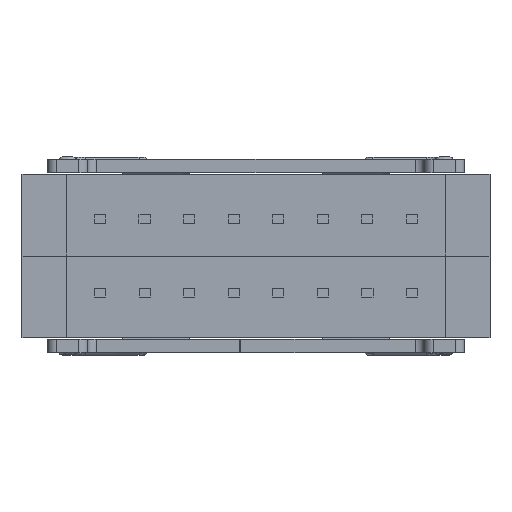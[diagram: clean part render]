
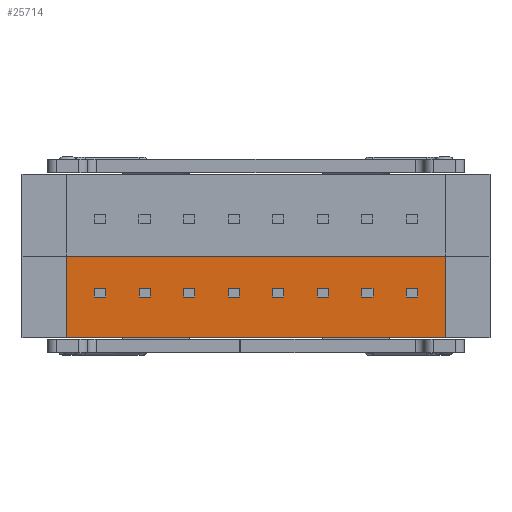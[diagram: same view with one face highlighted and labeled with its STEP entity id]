
A CAD part, top view. The second image highlights one B-rep face of the part: STEP entity #25714.
In plain terms, the highlighted free-form (B-spline) face has degree [1, 1] with [2, 2] control points.
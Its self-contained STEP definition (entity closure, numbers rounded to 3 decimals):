
#2527 = VERTEX_POINT ( 'NONE', #29261 ) ;
#4012 = CARTESIAN_POINT ( 'NONE',  ( 3.25, 1.13, -4.55 ) ) ;
#4457 = ORIENTED_EDGE ( 'NONE', *, *, #36661, .F. ) ;
#4458 = B_SPLINE_CURVE_WITH_KNOTS ( 'NONE', 1,
 ( #7135, #11232 ),
 .UNSPECIFIED., .F., .F.,
 ( 2, 2 ),
 ( 0., 1. ),
 .UNSPECIFIED. ) ;
#5976 = CARTESIAN_POINT ( 'NONE',  ( 3.08, 1.167, -4.55 ) ) ;
#7135 = CARTESIAN_POINT ( 'NONE',  ( 11.75, -0.7, -4.55 ) ) ;
#7848 = CARTESIAN_POINT ( 'NONE',  ( 11.75, 1.13, -4.55 ) ) ;
#11232 = CARTESIAN_POINT ( 'NONE',  ( 3.25, -0.7, -4.55 ) ) ;
#14150 = VERTEX_POINT ( 'NONE', #25659 ) ;
#14285 = VERTEX_POINT ( 'NONE', #19151 ) ;
#15444 = CARTESIAN_POINT ( 'NONE',  ( 11.75, -0.7, -4.55 ) ) ;
#15609 = FACE_OUTER_BOUND ( 'NONE', #26172, .T. ) ;
#18470 = CARTESIAN_POINT ( 'NONE',  ( 11.92, -0.737, -4.55 ) ) ;
#19151 = CARTESIAN_POINT ( 'NONE',  ( 3.25, 1.13, -4.55 ) ) ;
#22343 = ORIENTED_EDGE ( 'NONE', *, *, #24383, .F. ) ;
#24383 = EDGE_CURVE ( 'NONE', #14150, #35285, #29502, .T. ) ;
#25659 = CARTESIAN_POINT ( 'NONE',  ( 11.75, -0.7, -4.55 ) ) ;
#25700 = CARTESIAN_POINT ( 'NONE',  ( 3.25, -0.7, -4.55 ) ) ;
#25714 = ADVANCED_FACE ( 'NONE', ( #15609 ), #38115, .F. ) ;
#26172 = EDGE_LOOP ( 'NONE', ( #29466, #4457, #35606, #22343 ) ) ;
#29261 = CARTESIAN_POINT ( 'NONE',  ( 3.25, -0.7, -4.55 ) ) ;
#29466 = ORIENTED_EDGE ( 'NONE', *, *, #36512, .T. ) ;
#29502 = B_SPLINE_CURVE_WITH_KNOTS ( 'NONE', 1,
 ( #15444, #34646 ),
 .UNSPECIFIED., .F., .F.,
 ( 2, 2 ),
 ( 0., 1. ),
 .UNSPECIFIED. ) ;
#30928 = CARTESIAN_POINT ( 'NONE',  ( 11.92, 1.167, -4.55 ) ) ;
#31338 = CARTESIAN_POINT ( 'NONE',  ( 3.08, -0.737, -4.55 ) ) ;
#31953 = CARTESIAN_POINT ( 'NONE',  ( 3.25, 1.13, -4.55 ) ) ;
#33444 = EDGE_CURVE ( 'NONE', #35285, #14285, #35622, .T. ) ;
#34646 = CARTESIAN_POINT ( 'NONE',  ( 11.75, 1.13, -4.55 ) ) ;
#35285 = VERTEX_POINT ( 'NONE', #39211 ) ;
#35606 = ORIENTED_EDGE ( 'NONE', *, *, #33444, .F. ) ;
#35622 = B_SPLINE_CURVE_WITH_KNOTS ( 'NONE', 1,
 ( #7848, #31953 ),
 .UNSPECIFIED., .F., .F.,
 ( 2, 2 ),
 ( -1., 0. ),
 .UNSPECIFIED. ) ;
#36512 = EDGE_CURVE ( 'NONE', #14150, #2527, #4458, .T. ) ;
#36661 = EDGE_CURVE ( 'NONE', #14285, #2527, #37116, .T. ) ;
#37116 = B_SPLINE_CURVE_WITH_KNOTS ( 'NONE', 1,
 ( #4012, #25700 ),
 .UNSPECIFIED., .F., .F.,
 ( 2, 2 ),
 ( 0., 1. ),
 .UNSPECIFIED. ) ;
#38115 = B_SPLINE_SURFACE_WITH_KNOTS ( 'NONE', 1, 1, ( 
 ( #31338, #5976 ),
 ( #18470, #30928 ) ),
 .UNSPECIFIED., .F., .F., .F.,
 ( 2, 2 ),
 ( 2, 2 ),
 ( -4.42, 4.42 ),
 ( -0.937, 0.967 ),
 .UNSPECIFIED. ) ;
#39211 = CARTESIAN_POINT ( 'NONE',  ( 11.75, 1.13, -4.55 ) ) ;
